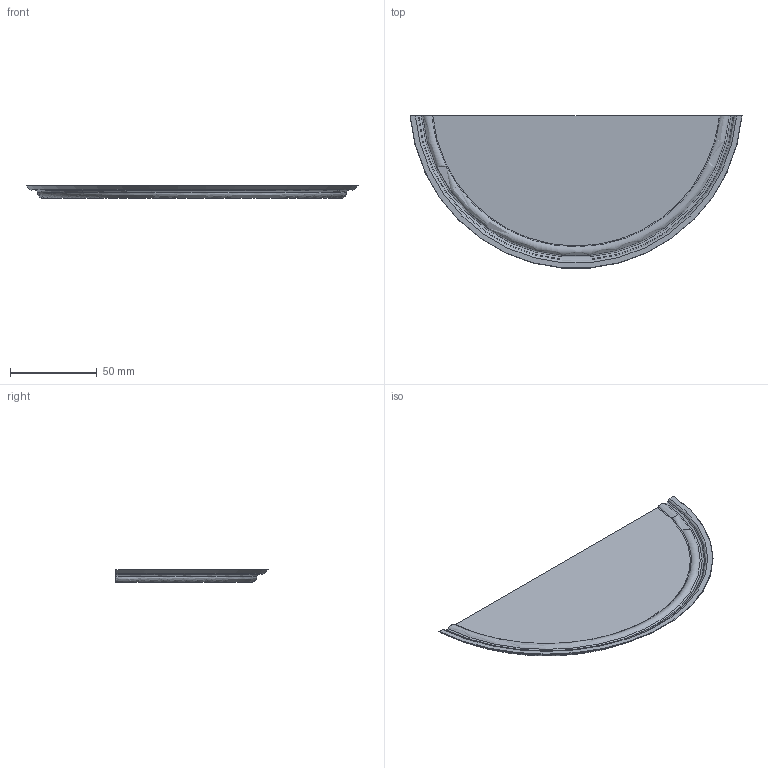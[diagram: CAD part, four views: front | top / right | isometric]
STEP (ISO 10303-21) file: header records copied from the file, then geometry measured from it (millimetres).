
FILE_DESCRIPTION(/* description */ ('STEP AP242 Edition 2','CAx-IF Rec.Pracs.---Representation and Presentation of Product Manufacturing Information (PMI)---4.0---2014-10-13','CAx-IF Rec.Pracs.---3D Tessellated Geometry---0.4---2014-09-14','2;1','CAx-IF Rec.Pracs.---User Defined Attributes---1.5---2016-08-15'),/* implementation_level */ '2;1');
FILE_NAME(/* name */ 'Part Studio 1 - 1-1 Front Seal',/* time_stamp */ '2026-06-01T05:47:56Z',/* author */ (''),/* organization */ (''),/* preprocessor_version */ 'ST-DEVELOPER v20',/* originating_system */ 'ONSHAPE BY PTC INC, 1.215',/* authorisation */ ' ');
FILE_SCHEMA (('AP242_MANAGED_MODEL_BASED_3D_ENGINEERING_MIM_LF { 1 0 10303 442 3 1 4 }'));
Length unit declared in the file: millimetre
Products named in the file (1): 1:1 Front Seal
Bounding box: 191.53 x 87.73 x 7.47 mm (x, y, z)
Volume: 29449.6 mm3; surface area: 31019.4 mm2
Topology: 1 solids, 1 shells, 24 faces, 66 edges, 44 vertices
Faces by surface type: torus 8, cone 6, bspline 6, plane 4
Entity records: 1437 total; most frequent: CARTESIAN_POINT 889, ORIENTED_EDGE 132, DIRECTION 80, EDGE_CURVE 66, VERTEX_POINT 44, B_SPLINE_CURVE_WITH_KNOTS 41, AXIS2_PLACEMENT_3D 36, EDGE_LOOP 24
